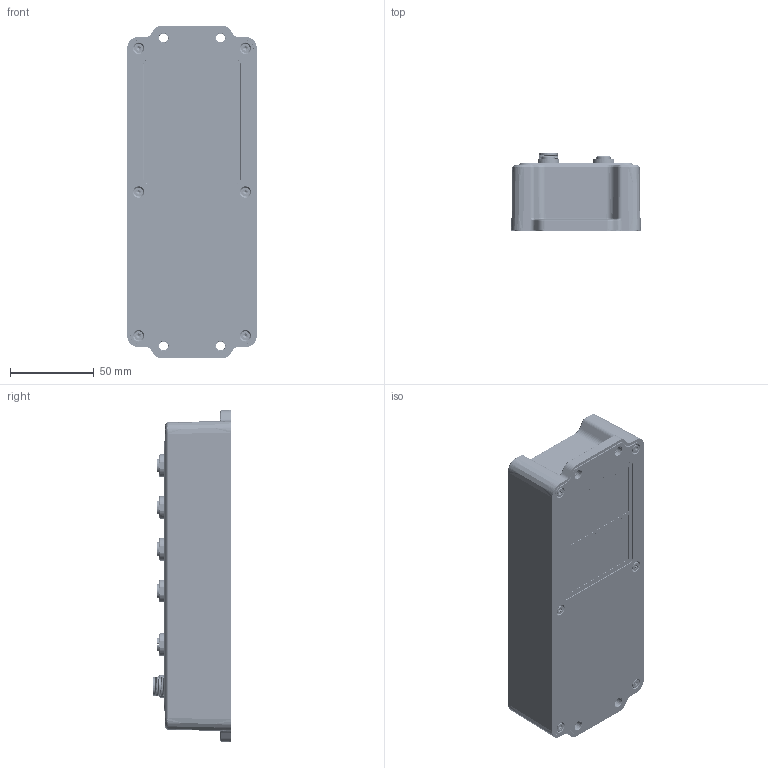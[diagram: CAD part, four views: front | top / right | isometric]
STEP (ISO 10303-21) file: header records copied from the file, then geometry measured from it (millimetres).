
FILE_DESCRIPTION((''),'2;1');
FILE_NAME('CU_FD-11601','2019-04-17T',('dkendric'),(''),'CREO PARAMETRIC BY PTC INC, 2017480','CREO PARAMETRIC BY PTC INC, 2017480','');
FILE_SCHEMA(('AUTOMOTIVE_DESIGN { 1 0 10303 214 1 1 1 1 }'));
Products named in the file (1): CU_FD-11601
Bounding box: 77.36 x 47.07 x 198.45 mm (x, y, z)
Volume: 213461.5 mm3; surface area: 158114.6 mm2
Topology: 14 solids, 21 shells, 10794 faces, 28301 edges, 17635 vertices
Faces by surface type: plane 3474, cylinder 3111, bspline 2229, cone 810, torus 785, sphere 223, extrusion 162
Entity records: 604296 total; most frequent: CARTESIAN_POINT 256752, ORIENTED_EDGE 55990, DIRECTION 46508, EDGE_CURVE 27995, VERTEX_POINT 17635, AXIS2_PLACEMENT_3D 16881, FILL_AREA_STYLE_COLOUR 15217, FILL_AREA_STYLE 15217
